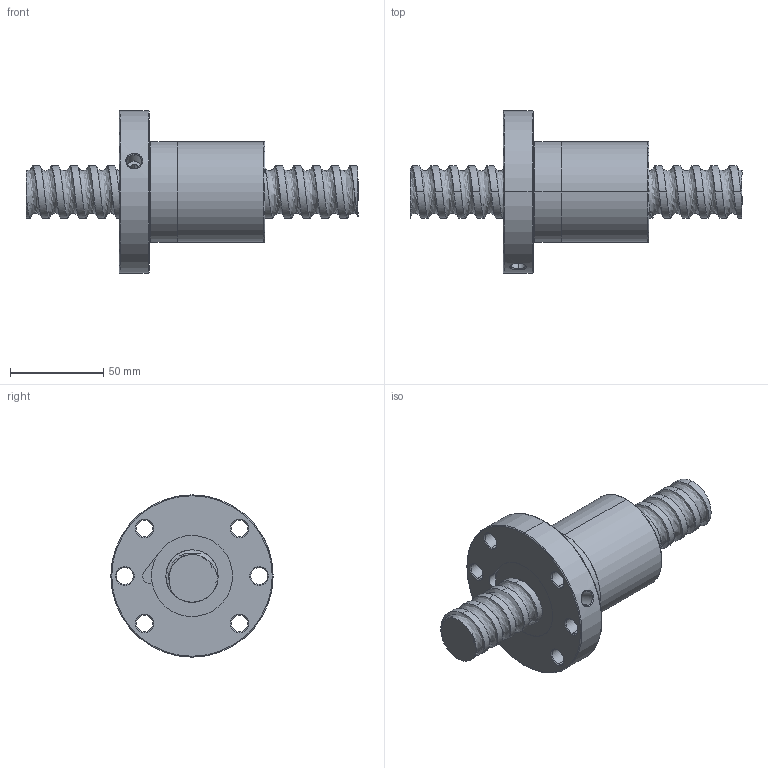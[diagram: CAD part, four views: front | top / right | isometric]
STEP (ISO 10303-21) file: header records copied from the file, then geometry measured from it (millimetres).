
FILE_DESCRIPTION (( 'STEP AP214' ), '1' );
FILE_NAME ('FSDC02810T5-F-A.STEP', '2010-06-25T11:45:54', ( 'XPAUTO' ), ( 'XPAUTO' ), 'SwSTEP 2.0', 'SolidWorks 2007', '' );
FILE_SCHEMA (( 'AUTOMOTIVE_DESIGN' ));
Length unit declared in the file: millimetre
Products named in the file (3): FSDC02810T5-F-A.sldasm-Part-1_預設; FSDC02810T5-F-A.sldasm-Part-2_預設; FSDC02810T5-F-A
Assembly tree (2 placements, depth 2):
  FSDC02810T5-F-A
    FSDC02810T5-F-A.sldasm-Part-1_預設
    FSDC02810T5-F-A.sldasm-Part-2_預設
Bounding box: 178 x 87 x 87 mm (x, y, z)
Volume: 273357.2 mm3; surface area: 54429.2 mm2
Topology: 2 solids, 2 shells, 125 faces, 313 edges, 197 vertices
Faces by surface type: cylinder 74, cone 24, plane 16, torus 6, bspline 5
Entity records: 25841 total; most frequent: CARTESIAN_POINT 22849, ORIENTED_EDGE 626, DIRECTION 581, EDGE_CURVE 313, AXIS2_PLACEMENT_3D 238, VERTEX_POINT 197, EDGE_LOOP 146, FACE_OUTER_BOUND 125
